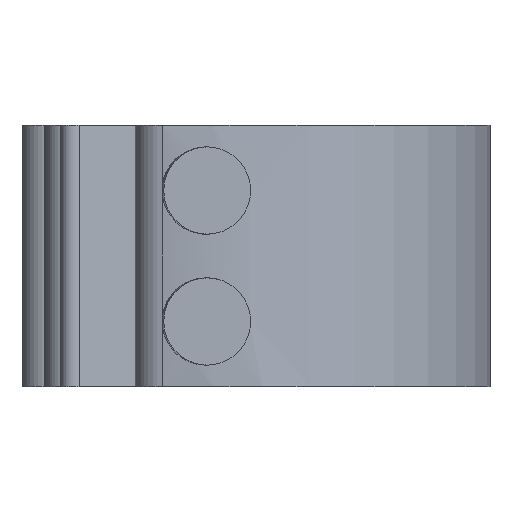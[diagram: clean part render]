
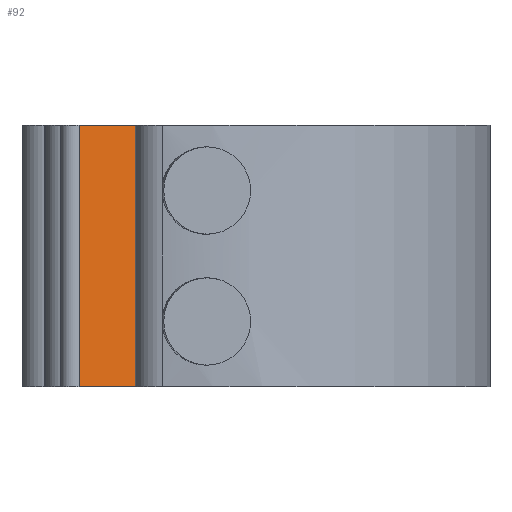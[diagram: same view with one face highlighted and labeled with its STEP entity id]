
A CAD part, front view. The second image highlights one B-rep face of the part: STEP entity #92.
In plain terms, the highlighted planar face has unit normal (0.57, -0.822, 0).
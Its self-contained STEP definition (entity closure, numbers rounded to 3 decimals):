
#92 = ADVANCED_FACE( '', ( #245 ), #246, .F. );
#245 = FACE_OUTER_BOUND( '', #466, .T. );
#246 = PLANE( '', #467 );
#466 = EDGE_LOOP( '', ( #681, #682, #683, #684 ) );
#467 = AXIS2_PLACEMENT_3D( '', #685, #686, #687 );
#681 = ORIENTED_EDGE( '', *, *, #1319, .T. );
#682 = ORIENTED_EDGE( '', *, *, #1320, .F. );
#683 = ORIENTED_EDGE( '', *, *, #1321, .F. );
#684 = ORIENTED_EDGE( '', *, *, #1322, .T. );
#685 = CARTESIAN_POINT( '', ( -7.359, 19.723, 6. ) );
#686 = DIRECTION( '', ( -0.569, 0.822, 0. ) );
#687 = DIRECTION( '', ( -0.822, -0.569, 0. ) );
#1319 = EDGE_CURVE( '', #1571, #1572, #1573, .T. );
#1320 = EDGE_CURVE( '', #1574, #1572, #1575, .T. );
#1321 = EDGE_CURVE( '', #1576, #1574, #1577, .T. );
#1322 = EDGE_CURVE( '', #1576, #1571, #1578, .T. );
#1571 = VERTEX_POINT( '', #1945 );
#1572 = VERTEX_POINT( '', #1946 );
#1573 = LINE( '', #1947, #1948 );
#1574 = VERTEX_POINT( '', #1949 );
#1575 = LINE( '', #1950, #1951 );
#1576 = VERTEX_POINT( '', #1952 );
#1577 = LINE( '', #1953, #1954 );
#1578 = LINE( '', #1955, #1956 );
#1945 = CARTESIAN_POINT( '', ( -7.359, 19.723, -6. ) );
#1946 = CARTESIAN_POINT( '', ( -3.468, 22.419, -6. ) );
#1947 = CARTESIAN_POINT( '', ( -7.359, 19.723, -6. ) );
#1948 = VECTOR( '', #2658, 1000. );
#1949 = CARTESIAN_POINT( '', ( -3.468, 22.419, 6. ) );
#1950 = CARTESIAN_POINT( '', ( -3.468, 22.419, 6. ) );
#1951 = VECTOR( '', #2659, 1000. );
#1952 = CARTESIAN_POINT( '', ( -7.359, 19.723, 6. ) );
#1953 = CARTESIAN_POINT( '', ( -7.359, 19.723, 6. ) );
#1954 = VECTOR( '', #2660, 1000. );
#1955 = CARTESIAN_POINT( '', ( -7.359, 19.723, 6. ) );
#1956 = VECTOR( '', #2661, 1000. );
#2658 = DIRECTION( '', ( 0.822, 0.569, 0. ) );
#2659 = DIRECTION( '', ( 0., 0., -1. ) );
#2660 = DIRECTION( '', ( 0.822, 0.569, 0. ) );
#2661 = DIRECTION( '', ( 0., 0., -1. ) );
